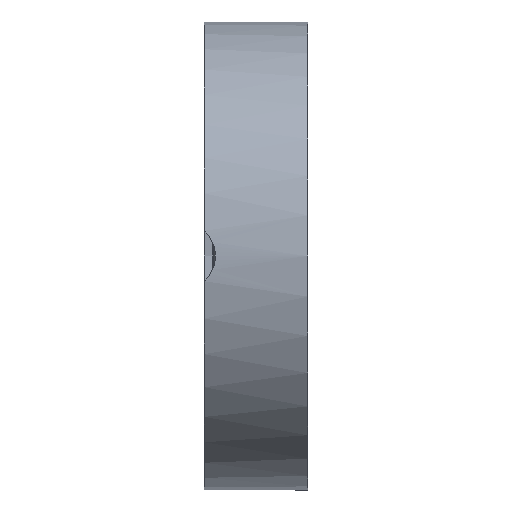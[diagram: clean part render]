
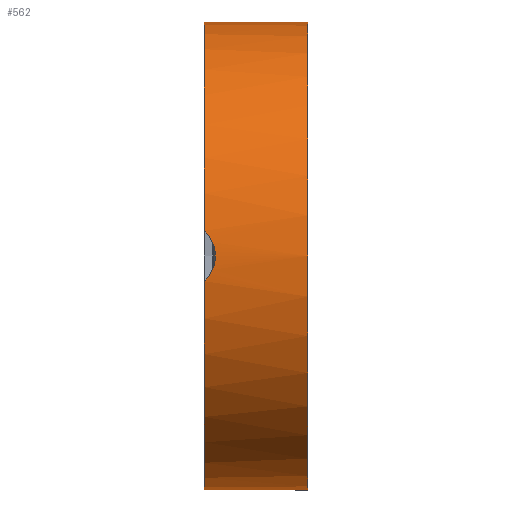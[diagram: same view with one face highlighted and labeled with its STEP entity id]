
A CAD part, left-side view. The second image highlights one B-rep face of the part: STEP entity #562.
In plain terms, the highlighted cylindrical face has radius 17 mm (diameter 34 mm), a partial arc.
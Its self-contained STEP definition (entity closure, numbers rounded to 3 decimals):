
#3 = CARTESIAN_POINT ( 'NONE',  ( 0., 0., 17. ) ) ;
#45 = DIRECTION ( 'NONE',  ( 0., 1., 0. ) ) ;
#56 = EDGE_CURVE ( 'NONE', #658, #920, #379, .T. ) ;
#59 = DIRECTION ( 'NONE',  ( 0., 0., 1. ) ) ;
#68 = VECTOR ( 'NONE', #73, 1000. ) ;
#73 = DIRECTION ( 'NONE',  ( 0., 1., 0. ) ) ;
#117 = CARTESIAN_POINT ( 'NONE',  ( -16.98, 6.84, -0.843 ) ) ;
#124 = CARTESIAN_POINT ( 'NONE',  ( -16.914, 7.373, -1.716 ) ) ;
#185 = VERTEX_POINT ( 'NONE', #3 ) ;
#220 = CARTESIAN_POINT ( 'NONE',  ( -16.98, 6.84, 0.843 ) ) ;
#237 = DIRECTION ( 'NONE',  ( 0., 0., 1. ) ) ;
#260 = CARTESIAN_POINT ( 'NONE',  ( 0., 0., 17. ) ) ;
#264 = VERTEX_POINT ( 'NONE', #1124 ) ;
#266 = EDGE_CURVE ( 'NONE', #1119, #658, #280, .T. ) ;
#280 = B_SPLINE_CURVE_WITH_KNOTS ( 'NONE', 3,
 ( #951, #124, #674, #1051, #296, #117, #663, #501, #1038, #567, #756, #946, #220, #485, #1057, #479, #402, #843 ),
 .UNSPECIFIED., .F., .F.,
 ( 4, 2, 2, 2, 2, 2, 2, 2, 4 ),
 ( 0., 0.001, 0.001, 0.002, 0.002, 0.003, 0.003, 0.004, 0.004 ),
 .UNSPECIFIED. ) ;
#296 = CARTESIAN_POINT ( 'NONE',  ( -16.961, 6.977, -1.157 ) ) ;
#314 = CARTESIAN_POINT ( 'NONE',  ( 0., 7.5, 0. ) ) ;
#318 = CARTESIAN_POINT ( 'NONE',  ( -16.901, 7.5, 1.833 ) ) ;
#348 = LINE ( 'NONE', #260, #68 ) ;
#351 = ORIENTED_EDGE ( 'NONE', *, *, #56, .F. ) ;
#379 = CIRCLE ( 'NONE', #513, 17. ) ;
#402 = CARTESIAN_POINT ( 'NONE',  ( -16.914, 7.373, 1.716 ) ) ;
#403 = EDGE_CURVE ( 'NONE', #185, #920, #348, .T. ) ;
#422 = ORIENTED_EDGE ( 'NONE', *, *, #744, .T. ) ;
#479 = CARTESIAN_POINT ( 'NONE',  ( -16.926, 7.261, 1.587 ) ) ;
#485 = CARTESIAN_POINT ( 'NONE',  ( -16.961, 6.977, 1.156 ) ) ;
#501 = CARTESIAN_POINT ( 'NONE',  ( -16.997, 6.718, -0.345 ) ) ;
#510 = LINE ( 'NONE', #524, #519 ) ;
#512 = FACE_OUTER_BOUND ( 'NONE', #747, .T. ) ;
#513 = AXIS2_PLACEMENT_3D ( 'NONE', #314, #621, #59 ) ;
#519 = VECTOR ( 'NONE', #891, 1000. ) ;
#524 = CARTESIAN_POINT ( 'NONE',  ( 0., 0., -17. ) ) ;
#531 = ORIENTED_EDGE ( 'NONE', *, *, #1141, .F. ) ;
#562 = ADVANCED_FACE ( 'NONE', ( #512 ), #696, .T. ) ;
#567 = CARTESIAN_POINT ( 'NONE',  ( -17., 6.7, 0.17 ) ) ;
#575 = VERTEX_POINT ( 'NONE', #1167 ) ;
#598 = CARTESIAN_POINT ( 'NONE',  ( 0., 0., 0. ) ) ;
#608 = DIRECTION ( 'NONE',  ( 0., 0., 1. ) ) ;
#613 = CIRCLE ( 'NONE', #761, 17. ) ;
#621 = DIRECTION ( 'NONE',  ( 0., 1., 0. ) ) ;
#658 = VERTEX_POINT ( 'NONE', #318 ) ;
#663 = CARTESIAN_POINT ( 'NONE',  ( -16.987, 6.788, -0.681 ) ) ;
#674 = CARTESIAN_POINT ( 'NONE',  ( -16.926, 7.261, -1.587 ) ) ;
#696 = CYLINDRICAL_SURFACE ( 'NONE', #1081, 17. ) ;
#723 = ORIENTED_EDGE ( 'NONE', *, *, #266, .F. ) ;
#727 = EDGE_CURVE ( 'NONE', #264, #1119, #820, .T. ) ;
#744 = EDGE_CURVE ( 'NONE', #575, #185, #613, .T. ) ;
#747 = EDGE_LOOP ( 'NONE', ( #531, #422, #844, #351, #723, #1029 ) ) ;
#756 = CARTESIAN_POINT ( 'NONE',  ( -16.997, 6.717, 0.342 ) ) ;
#761 = AXIS2_PLACEMENT_3D ( 'NONE', #877, #1191, #1092 ) ;
#820 = CIRCLE ( 'NONE', #1114, 17. ) ;
#824 = CARTESIAN_POINT ( 'NONE',  ( 0., 7.5, 0. ) ) ;
#837 = CARTESIAN_POINT ( 'NONE',  ( 0., 7.5, 17. ) ) ;
#843 = CARTESIAN_POINT ( 'NONE',  ( -16.901, 7.5, 1.833 ) ) ;
#844 = ORIENTED_EDGE ( 'NONE', *, *, #403, .T. ) ;
#877 = CARTESIAN_POINT ( 'NONE',  ( 0., 0., 0. ) ) ;
#891 = DIRECTION ( 'NONE',  ( 0., 1., 0. ) ) ;
#920 = VERTEX_POINT ( 'NONE', #837 ) ;
#946 = CARTESIAN_POINT ( 'NONE',  ( -16.987, 6.788, 0.68 ) ) ;
#951 = CARTESIAN_POINT ( 'NONE',  ( -16.901, 7.5, -1.833 ) ) ;
#1029 = ORIENTED_EDGE ( 'NONE', *, *, #727, .F. ) ;
#1038 = CARTESIAN_POINT ( 'NONE',  ( -17., 6.7, -0.171 ) ) ;
#1051 = CARTESIAN_POINT ( 'NONE',  ( -16.95, 7.063, -1.309 ) ) ;
#1057 = CARTESIAN_POINT ( 'NONE',  ( -16.95, 7.062, 1.308 ) ) ;
#1081 = AXIS2_PLACEMENT_3D ( 'NONE', #598, #45, #608 ) ;
#1083 = DIRECTION ( 'NONE',  ( 0., 1., 0. ) ) ;
#1092 = DIRECTION ( 'NONE',  ( 0., 0., 1. ) ) ;
#1114 = AXIS2_PLACEMENT_3D ( 'NONE', #824, #1083, #237 ) ;
#1119 = VERTEX_POINT ( 'NONE', #1170 ) ;
#1124 = CARTESIAN_POINT ( 'NONE',  ( 0., 7.5, -17. ) ) ;
#1141 = EDGE_CURVE ( 'NONE', #575, #264, #510, .T. ) ;
#1167 = CARTESIAN_POINT ( 'NONE',  ( 0., 0., -17. ) ) ;
#1170 = CARTESIAN_POINT ( 'NONE',  ( -16.901, 7.5, -1.833 ) ) ;
#1191 = DIRECTION ( 'NONE',  ( 0., 1., 0. ) ) ;
